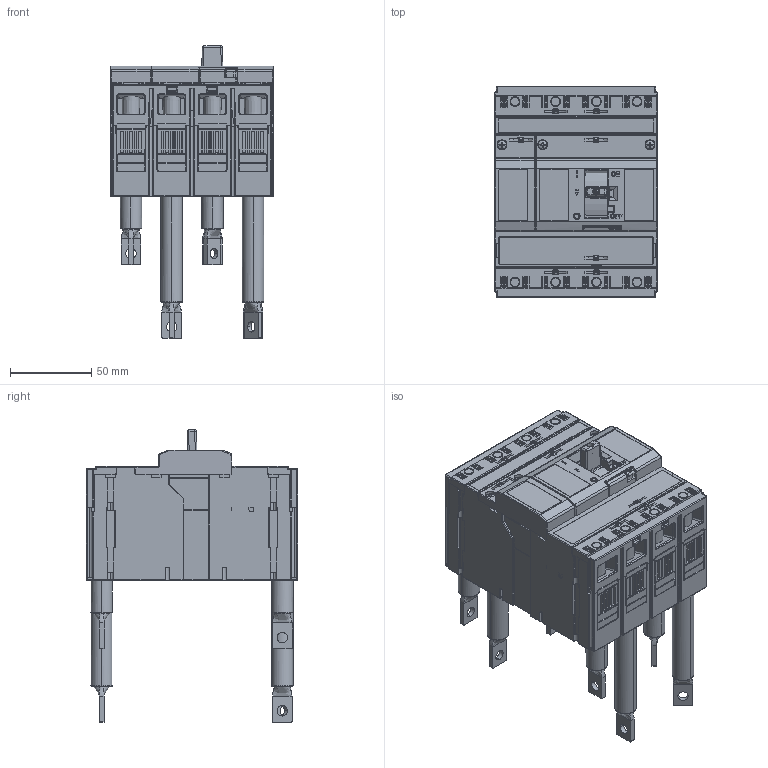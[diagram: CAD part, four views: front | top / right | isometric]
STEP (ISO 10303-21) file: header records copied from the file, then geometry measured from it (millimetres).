
FILE_DESCRIPTION (( 'STEP AP214' ), '1' );
FILE_NAME ('BC160NT405_406__CS-BC-A421_finalni.step', '2013-05-15T10:36:20', ( '' ), ( '' ), 'SwSTEP 2.0', 'SolidWorks 2011', '' );
FILE_SCHEMA (( 'AUTOMOTIVE_DESIGN' ));
Length unit declared in the file: millimetre
Products named in the file (1): BC160NT405_406__CS-BC-A421_finalni
Bounding box: 100 x 130 x 179.7 mm (x, y, z)
Volume: 884780.6 mm3; surface area: 166762.2 mm2
Topology: 11 solids, 11 shells, 4811 faces, 13067 edges, 8310 vertices
Faces by surface type: plane 2729, cylinder 1165, bspline 516, cone 401
Entity records: 223296 total; most frequent: CARTESIAN_POINT 55514, ORIENTED_EDGE 26048, DIRECTION 20695, EDGE_CURVE 13024, LINE 8631, VECTOR 8631, VERTEX_POINT 8310, AXIS2_PLACEMENT_3D 6032
